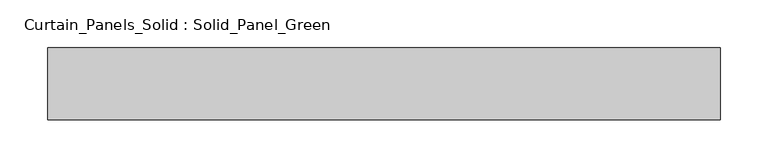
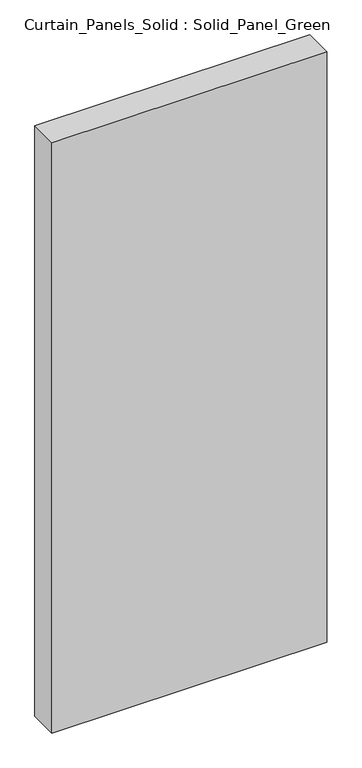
"""IFC4 building model written with IfcOpenShell, lengths in millimetres: plate geometry, Curtain_Panels_Solid : Solid_Panel_Green."""

from ifc_helpers import new_model, si_unit, origin, origin_with_axes, place, context, project, spatial, polyline, outline, extrude, source, transform, mapped, element, save


def curtain_panels_solid_solid_panel_green_b2436ba5(model_context):
    return source(origin(), model_context, "Body", "SweptSolid", [
        extrude(outline(polyline([(351.2520699, 25.0), (351.2520699, -50.0), (-351.2520699, -50.0), (-351.2520699, 25.0), (351.2520699, 25.0)])), origin_with_axes(), (0.0, 0.0, 1.0), 1594.4444444),
    ])


if __name__ == "__main__":
    model = new_model("IFC4")
    model_context = context("Model", 3, world=origin())
    ifc_project = project(units=[si_unit("LENGTHUNIT", "METRE", prefix="MILLI")], contexts=[model_context])
    site = spatial("IfcSite", under=ifc_project)
    building = spatial("IfcBuilding", under=site)
    placement = place(None, origin())
    curtain_panels_solid_solid_panel_green_shape = curtain_panels_solid_solid_panel_green_b2436ba5(model_context)
    element("IfcPlate", 1, ObjectType="Curtain_Panels_Solid : Solid_Panel_Green", at=placement, inside=building, context=model_context, shape_type="MappedRepresentation", body=[
        mapped(curtain_panels_solid_solid_panel_green_shape, transform((0.0, 0.0, 0.0), x_axis=(1.0, 0.0, 0.0), y_axis=(0.0, 1.0, 0.0), z_axis=(0.0, 0.0, 1.0))),
    ])
    save(model, "model.ifc")
